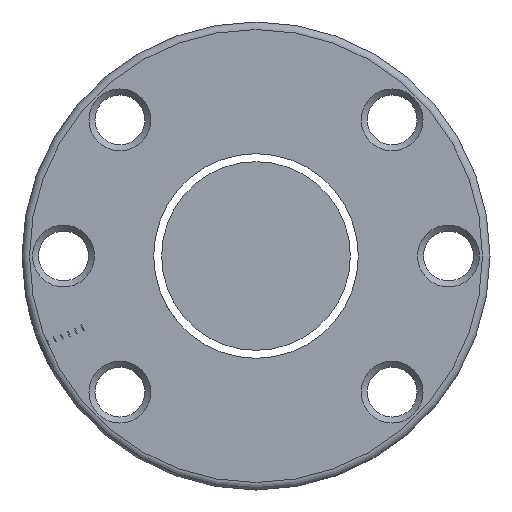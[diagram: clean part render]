
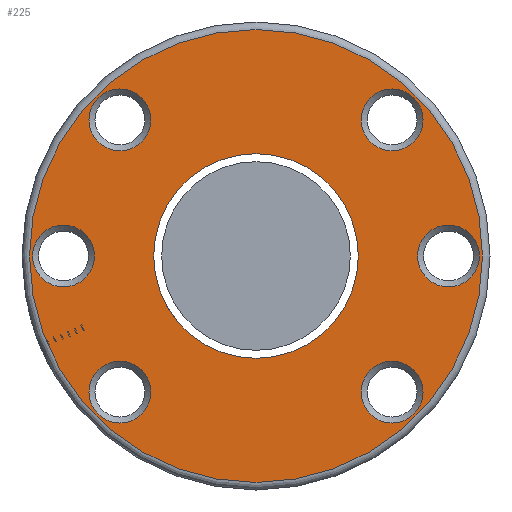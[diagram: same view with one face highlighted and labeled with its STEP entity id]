
A CAD part, left-side view. The second image highlights one B-rep face of the part: STEP entity #225.
In plain terms, the highlighted planar face has unit normal (-1, 0, 0).
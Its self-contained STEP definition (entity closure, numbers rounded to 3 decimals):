
#77 = EDGE_CURVE ( 'NONE', #1115, #1115, #2568, .T. ) ;
#96 = CARTESIAN_POINT ( 'NONE',  ( -51., 0., 0. ) ) ;
#104 = AXIS2_PLACEMENT_3D ( 'NONE', #483, #1725, #1311 ) ;
#113 = AXIS2_PLACEMENT_3D ( 'NONE', #121, #730, #2585 ) ;
#116 = EDGE_LOOP ( 'NONE', ( #767 ) ) ;
#121 = CARTESIAN_POINT ( 'NONE',  ( -51., -18.031, -18.031 ) ) ;
#148 = VERTEX_POINT ( 'NONE', #162 ) ;
#162 = CARTESIAN_POINT ( 'NONE',  ( -51., -29.6, 0. ) ) ;
#163 = CARTESIAN_POINT ( 'NONE',  ( -51., 31., 0. ) ) ;
#172 = EDGE_CURVE ( 'NONE', #311, #311, #1489, .T. ) ;
#190 = FACE_BOUND ( 'NONE', #1164, .T. ) ;
#225 = ADVANCED_FACE ( 'NONE', ( #1003, #190, #1423, #548, #1589, #2274, #1226, #1215 ), #410, .T. ) ;
#252 = DIRECTION ( 'NONE',  ( 1., 0., 0. ) ) ;
#285 = AXIS2_PLACEMENT_3D ( 'NONE', #1588, #2665, #1810 ) ;
#311 = VERTEX_POINT ( 'NONE', #489 ) ;
#331 = AXIS2_PLACEMENT_3D ( 'NONE', #163, #2710, #588 ) ;
#410 = PLANE ( 'NONE',  #331 ) ;
#463 = ORIENTED_EDGE ( 'NONE', *, *, #172, .T. ) ;
#483 = CARTESIAN_POINT ( 'NONE',  ( -51., 18.031, -18.031 ) ) ;
#489 = CARTESIAN_POINT ( 'NONE',  ( -51., -22.131, 18.031 ) ) ;
#496 = EDGE_LOOP ( 'NONE', ( #917 ) ) ;
#515 = ORIENTED_EDGE ( 'NONE', *, *, #77, .T. ) ;
#519 = VERTEX_POINT ( 'NONE', #961 ) ;
#530 = EDGE_LOOP ( 'NONE', ( #463 ) ) ;
#533 = DIRECTION ( 'NONE',  ( 1., 0., 0. ) ) ;
#548 = FACE_BOUND ( 'NONE', #496, .T. ) ;
#556 = DIRECTION ( 'NONE',  ( 0., -1., 0. ) ) ;
#574 = VERTEX_POINT ( 'NONE', #1201 ) ;
#588 = DIRECTION ( 'NONE',  ( 0., -1., 0. ) ) ;
#611 = EDGE_CURVE ( 'NONE', #1932, #1932, #2293, .T. ) ;
#683 = CARTESIAN_POINT ( 'NONE',  ( -51., 25.5, 0. ) ) ;
#722 = EDGE_CURVE ( 'NONE', #872, #872, #1089, .T. ) ;
#730 = DIRECTION ( 'NONE',  ( 1., 0., 0. ) ) ;
#765 = CARTESIAN_POINT ( 'NONE',  ( -51., -25.5, 0. ) ) ;
#767 = ORIENTED_EDGE ( 'NONE', *, *, #2125, .T. ) ;
#771 = VERTEX_POINT ( 'NONE', #2036 ) ;
#855 = ORIENTED_EDGE ( 'NONE', *, *, #611, .T. ) ;
#872 = VERTEX_POINT ( 'NONE', #1295 ) ;
#897 = CARTESIAN_POINT ( 'NONE',  ( -51., -22.131, -18.031 ) ) ;
#917 = ORIENTED_EDGE ( 'NONE', *, *, #1692, .T. ) ;
#961 = CARTESIAN_POINT ( 'NONE',  ( -51., 13.931, -18.031 ) ) ;
#996 = AXIS2_PLACEMENT_3D ( 'NONE', #2223, #2644, #556 ) ;
#1003 = FACE_OUTER_BOUND ( 'NONE', #1574, .T. ) ;
#1089 = CIRCLE ( 'NONE', #1520, 4.1 ) ;
#1099 = CIRCLE ( 'NONE', #285, 13.55 ) ;
#1115 = VERTEX_POINT ( 'NONE', #897 ) ;
#1164 = EDGE_LOOP ( 'NONE', ( #1962 ) ) ;
#1183 = AXIS2_PLACEMENT_3D ( 'NONE', #96, #2577, #1534 ) ;
#1201 = CARTESIAN_POINT ( 'NONE',  ( -51., 13.55, 0. ) ) ;
#1215 = FACE_BOUND ( 'NONE', #116, .T. ) ;
#1226 = FACE_BOUND ( 'NONE', #2605, .T. ) ;
#1255 = DIRECTION ( 'NONE',  ( 0., -1., 0. ) ) ;
#1295 = CARTESIAN_POINT ( 'NONE',  ( -51., 21.4, 0. ) ) ;
#1311 = DIRECTION ( 'NONE',  ( 0., -1., 0. ) ) ;
#1334 = EDGE_LOOP ( 'NONE', ( #515 ) ) ;
#1423 = FACE_BOUND ( 'NONE', #1334, .T. ) ;
#1432 = AXIS2_PLACEMENT_3D ( 'NONE', #765, #1629, #2268 ) ;
#1436 = CIRCLE ( 'NONE', #1183, 30. ) ;
#1444 = AXIS2_PLACEMENT_3D ( 'NONE', #2411, #533, #2469 ) ;
#1450 = EDGE_LOOP ( 'NONE', ( #855 ) ) ;
#1489 = CIRCLE ( 'NONE', #1444, 4.1 ) ;
#1520 = AXIS2_PLACEMENT_3D ( 'NONE', #683, #252, #1255 ) ;
#1534 = DIRECTION ( 'NONE',  ( 0., -1., 0. ) ) ;
#1574 = EDGE_LOOP ( 'NONE', ( #2124 ) ) ;
#1588 = CARTESIAN_POINT ( 'NONE',  ( -51., 0., 0. ) ) ;
#1589 = FACE_BOUND ( 'NONE', #530, .T. ) ;
#1616 = ORIENTED_EDGE ( 'NONE', *, *, #722, .T. ) ;
#1629 = DIRECTION ( 'NONE',  ( 1., 0., 0. ) ) ;
#1661 = CIRCLE ( 'NONE', #104, 4.1 ) ;
#1692 = EDGE_CURVE ( 'NONE', #148, #148, #2370, .T. ) ;
#1725 = DIRECTION ( 'NONE',  ( 1., 0., 0. ) ) ;
#1756 = CARTESIAN_POINT ( 'NONE',  ( -51., 13.931, 18.031 ) ) ;
#1810 = DIRECTION ( 'NONE',  ( 0., 1., 0. ) ) ;
#1932 = VERTEX_POINT ( 'NONE', #1756 ) ;
#1962 = ORIENTED_EDGE ( 'NONE', *, *, #2493, .T. ) ;
#2036 = CARTESIAN_POINT ( 'NONE',  ( -51., -30., 0. ) ) ;
#2124 = ORIENTED_EDGE ( 'NONE', *, *, #2326, .T. ) ;
#2125 = EDGE_CURVE ( 'NONE', #574, #574, #1099, .T. ) ;
#2223 = CARTESIAN_POINT ( 'NONE',  ( -51., 18.031, 18.031 ) ) ;
#2268 = DIRECTION ( 'NONE',  ( 0., -1., 0. ) ) ;
#2274 = FACE_BOUND ( 'NONE', #1450, .T. ) ;
#2293 = CIRCLE ( 'NONE', #996, 4.1 ) ;
#2326 = EDGE_CURVE ( 'NONE', #771, #771, #1436, .T. ) ;
#2370 = CIRCLE ( 'NONE', #1432, 4.1 ) ;
#2411 = CARTESIAN_POINT ( 'NONE',  ( -51., -18.031, 18.031 ) ) ;
#2469 = DIRECTION ( 'NONE',  ( 0., -1., 0. ) ) ;
#2493 = EDGE_CURVE ( 'NONE', #519, #519, #1661, .T. ) ;
#2568 = CIRCLE ( 'NONE', #113, 4.1 ) ;
#2577 = DIRECTION ( 'NONE',  ( -1., 0., 0. ) ) ;
#2585 = DIRECTION ( 'NONE',  ( 0., -1., 0. ) ) ;
#2605 = EDGE_LOOP ( 'NONE', ( #1616 ) ) ;
#2644 = DIRECTION ( 'NONE',  ( 1., 0., 0. ) ) ;
#2665 = DIRECTION ( 'NONE',  ( 1., 0., 0. ) ) ;
#2710 = DIRECTION ( 'NONE',  ( -1., 0., 0. ) ) ;
